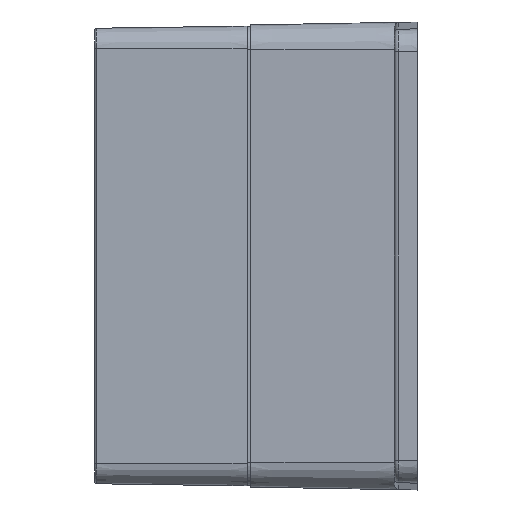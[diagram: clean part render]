
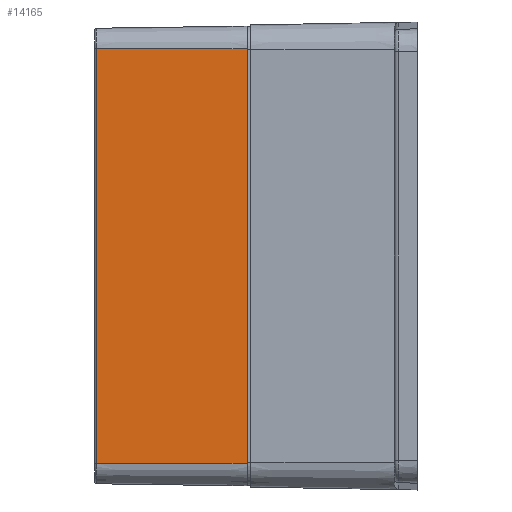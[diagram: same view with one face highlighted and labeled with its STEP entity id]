
A CAD part, left-side view. The second image highlights one B-rep face of the part: STEP entity #14165.
In plain terms, the highlighted planar face has unit normal (-1, 0.014, 0).
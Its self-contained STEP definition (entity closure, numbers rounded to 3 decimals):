
#41 = LINE ( 'NONE', #36720, #6305 ) ;
#2116 = EDGE_LOOP ( 'NONE', ( #11959, #35881, #4528, #36877 ) ) ;
#2719 = DIRECTION ( 'NONE',  ( 0., 0., 1. ) ) ;
#3745 = DIRECTION ( 'NONE',  ( -0.014, -1., 0. ) ) ;
#4528 = ORIENTED_EDGE ( 'NONE', *, *, #38511, .T. ) ;
#6292 = CARTESIAN_POINT ( 'NONE',  ( -84.748, 39.507, 54.35 ) ) ;
#6305 = VECTOR ( 'NONE', #18687, 1000. ) ;
#6923 = FACE_OUTER_BOUND ( 'NONE', #2116, .T. ) ;
#10399 = VERTEX_POINT ( 'NONE', #37491 ) ;
#11289 = CARTESIAN_POINT ( 'NONE',  ( -85.3, 0., 54.35 ) ) ;
#11959 = ORIENTED_EDGE ( 'NONE', *, *, #17077, .F. ) ;
#13105 = CARTESIAN_POINT ( 'NONE',  ( -84.748, 39.507, 54.35 ) ) ;
#13650 = PLANE ( 'NONE',  #22512 ) ;
#14165 = ADVANCED_FACE ( 'NONE', ( #6923 ), #13650, .T. ) ;
#15769 = VERTEX_POINT ( 'NONE', #13105 ) ;
#15781 = VERTEX_POINT ( 'NONE', #28332 ) ;
#16200 = DIRECTION ( 'NONE',  ( 0., 0., -1. ) ) ;
#16373 = VECTOR ( 'NONE', #26766, 1000. ) ;
#17077 = EDGE_CURVE ( 'NONE', #15769, #27144, #30132, .T. ) ;
#17484 = CARTESIAN_POINT ( 'NONE',  ( -85.3, 0., 54.35 ) ) ;
#18687 = DIRECTION ( 'NONE',  ( -0.014, -1., 0. ) ) ;
#21370 = LINE ( 'NONE', #6292, #38982 ) ;
#22512 = AXIS2_PLACEMENT_3D ( 'NONE', #28104, #25735, #3745 ) ;
#25735 = DIRECTION ( 'NONE',  ( -1., 0.014, 0. ) ) ;
#26766 = DIRECTION ( 'NONE',  ( -0.014, -1., 0. ) ) ;
#27144 = VERTEX_POINT ( 'NONE', #35767 ) ;
#28104 = CARTESIAN_POINT ( 'NONE',  ( -85.3, 0., 54.35 ) ) ;
#28332 = CARTESIAN_POINT ( 'NONE',  ( -85.3, 0., -54.35 ) ) ;
#29493 = LINE ( 'NONE', #11289, #35198 ) ;
#30132 = LINE ( 'NONE', #17484, #16373 ) ;
#31046 = EDGE_CURVE ( 'NONE', #15781, #27144, #29493, .T. ) ;
#32613 = EDGE_CURVE ( 'NONE', #15769, #10399, #21370, .T. ) ;
#35198 = VECTOR ( 'NONE', #2719, 1000. ) ;
#35767 = CARTESIAN_POINT ( 'NONE',  ( -85.3, 0., 54.35 ) ) ;
#35881 = ORIENTED_EDGE ( 'NONE', *, *, #32613, .T. ) ;
#36720 = CARTESIAN_POINT ( 'NONE',  ( -85.3, 0., -54.35 ) ) ;
#36877 = ORIENTED_EDGE ( 'NONE', *, *, #31046, .T. ) ;
#37491 = CARTESIAN_POINT ( 'NONE',  ( -84.748, 39.507, -54.35 ) ) ;
#38511 = EDGE_CURVE ( 'NONE', #10399, #15781, #41, .T. ) ;
#38982 = VECTOR ( 'NONE', #16200, 1000. ) ;
